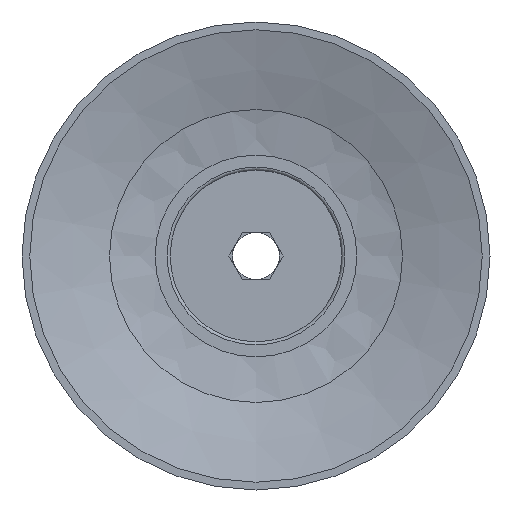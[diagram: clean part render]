
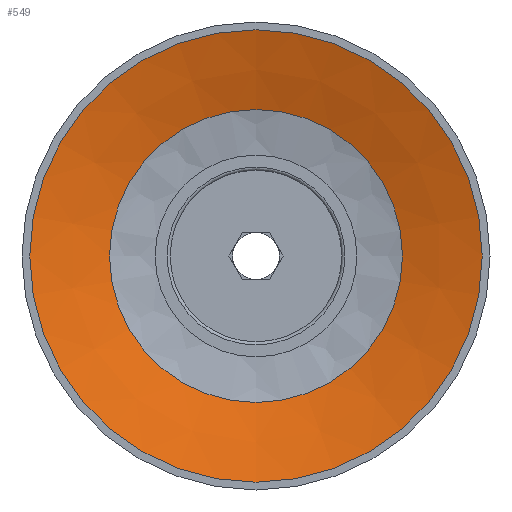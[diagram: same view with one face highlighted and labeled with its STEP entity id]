
A CAD part, front view. The second image highlights one B-rep face of the part: STEP entity #549.
In plain terms, the highlighted conical face has half-angle 73 degrees and reference radius 7.958 mm.
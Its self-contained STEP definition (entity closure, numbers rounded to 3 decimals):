
#549=ADVANCED_FACE('',(#785,#786),#787,.F.);
#785=FACE_BOUND('',#1044,.T.);
#786=FACE_OUTER_BOUND('',#1045,.T.);
#787=CONICAL_SURFACE('',#1046,7.958,1.274);
#1044=EDGE_LOOP('',(#1756));
#1045=EDGE_LOOP('',(#1757));
#1046=AXIS2_PLACEMENT_3D('',#1758,#1759,#1760);
#1756=ORIENTED_EDGE('',*,*,#1994,.T.);
#1757=ORIENTED_EDGE('',*,*,#1995,.T.);
#1758=CARTESIAN_POINT('',(0.0,9.363,0.0));
#1759=DIRECTION('',(-0.0,-1.0,0.));
#1760=DIRECTION('',(0.0,0.,-1.0));
#1994=EDGE_CURVE('',#2307,#2307,#2308,.T.);
#1995=EDGE_CURVE('',#2309,#2309,#2310,.T.);
#2307=VERTEX_POINT('',#3027);
#2308=CIRCLE('',#3028,9.388);
#2309=VERTEX_POINT('',#3029);
#2310=CIRCLE('',#3030,14.5);
#3027=CARTESIAN_POINT('',(0.0,8.926,-9.388));
#3028=AXIS2_PLACEMENT_3D('',#3328,#3329,#3330);
#3029=CARTESIAN_POINT('',(0.0,7.363,-14.5));
#3030=AXIS2_PLACEMENT_3D('',#3331,#3332,#3333);
#3328=CARTESIAN_POINT('',(0.0,8.926,0.0));
#3329=DIRECTION('',(0.0,1.0,0.));
#3330=DIRECTION('',(0.0,0.,-1.0));
#3331=CARTESIAN_POINT('',(0.0,7.363,0.0));
#3332=DIRECTION('',(0.0,-1.0,0.));
#3333=DIRECTION('',(0.0,0.,-1.0));
